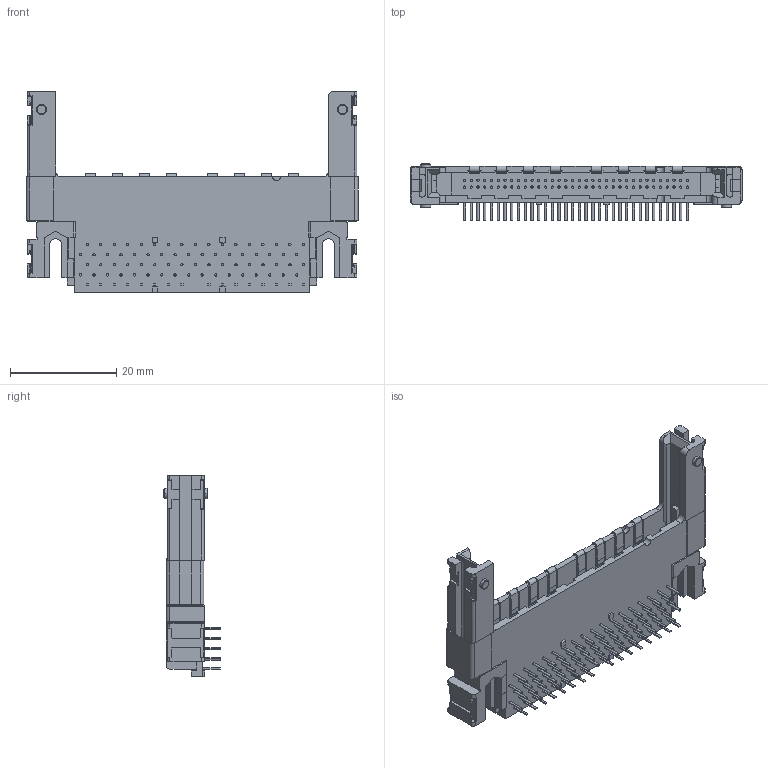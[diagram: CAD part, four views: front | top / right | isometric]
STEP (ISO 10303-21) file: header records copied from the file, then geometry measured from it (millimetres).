
FILE_DESCRIPTION((''),'2;1');
FILE_NAME('C-5146321-1','2014-10-01T',('workeradm'),('Tyco Electronics Ltd.'),'PRO/ENGINEER BY PARAMETRIC TECHNOLOGY CORPORATION, 2014090','PRO/ENGINEER BY PARAMETRIC TECHNOLOGY CORPORATION, 2014090','');
FILE_SCHEMA(('AUTOMOTIVE_DESIGN { 1 0 10303 214 1 1 1 1 }'));
Length unit declared in the file: millimetre
Products named in the file (1): C-5146321-1
Bounding box: 62.41 x 10.64 x 37.74 mm (x, y, z)
Volume: 6729.6 mm3; surface area: 7514.3 mm2
Topology: 1 solids, 1 shells, 1159 faces, 2893 edges, 1890 vertices
Faces by surface type: plane 755, cylinder 383, cone 21
Entity records: 34610 total; most frequent: DIRECTION 5998, CARTESIAN_POINT 5972, ORIENTED_EDGE 5786, EDGE_CURVE 2893, VECTOR 2090, LINE 2090, AXIS2_PLACEMENT_3D 1954, VERTEX_POINT 1890
